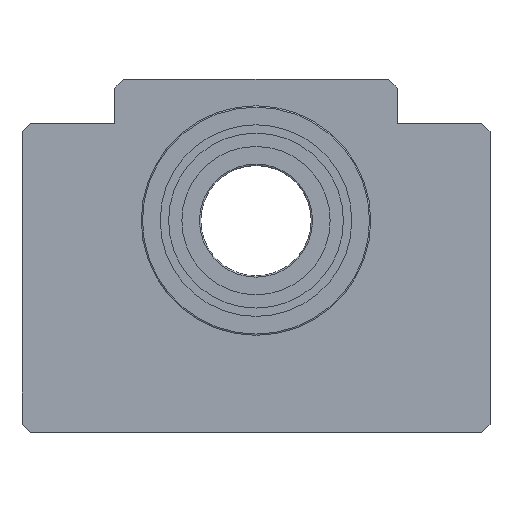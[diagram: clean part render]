
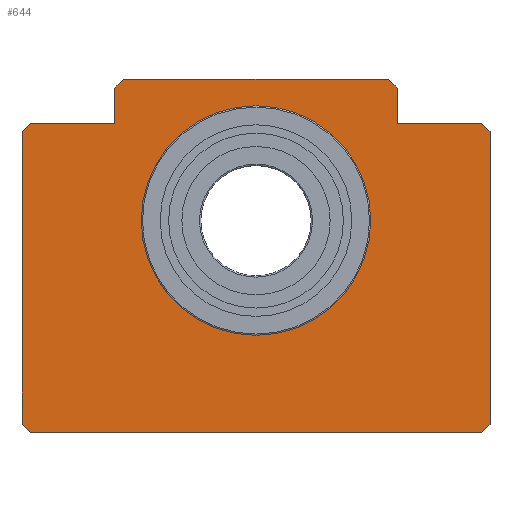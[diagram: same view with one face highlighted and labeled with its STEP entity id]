
A CAD part, top view. The second image highlights one B-rep face of the part: STEP entity #644.
In plain terms, the highlighted planar face has unit normal (0, 0, 1).
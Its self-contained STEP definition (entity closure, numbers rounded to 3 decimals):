
#54=CIRCLE('',#721,26.);
#160=ORIENTED_EDGE('',*,*,#282,.F.);
#161=ORIENTED_EDGE('',*,*,#231,.T.);
#162=ORIENTED_EDGE('',*,*,#235,.T.);
#163=ORIENTED_EDGE('',*,*,#240,.T.);
#164=ORIENTED_EDGE('',*,*,#243,.T.);
#165=ORIENTED_EDGE('',*,*,#246,.T.);
#166=ORIENTED_EDGE('',*,*,#252,.T.);
#167=ORIENTED_EDGE('',*,*,#257,.T.);
#168=ORIENTED_EDGE('',*,*,#258,.T.);
#169=ORIENTED_EDGE('',*,*,#261,.T.);
#170=ORIENTED_EDGE('',*,*,#264,.T.);
#171=ORIENTED_EDGE('',*,*,#267,.T.);
#172=ORIENTED_EDGE('',*,*,#270,.T.);
#173=ORIENTED_EDGE('',*,*,#276,.T.);
#174=ORIENTED_EDGE('',*,*,#280,.T.);
#231=EDGE_CURVE('',#307,#308,#367,.T.);
#235=EDGE_CURVE('',#308,#311,#371,.T.);
#240=EDGE_CURVE('',#311,#315,#374,.T.);
#243=EDGE_CURVE('',#315,#317,#377,.T.);
#246=EDGE_CURVE('',#317,#319,#380,.T.);
#252=EDGE_CURVE('',#319,#324,#385,.T.);
#257=EDGE_CURVE('',#324,#326,#389,.T.);
#258=EDGE_CURVE('',#326,#327,#390,.T.);
#261=EDGE_CURVE('',#327,#329,#393,.T.);
#264=EDGE_CURVE('',#329,#331,#396,.T.);
#267=EDGE_CURVE('',#331,#333,#399,.T.);
#270=EDGE_CURVE('',#333,#335,#402,.T.);
#276=EDGE_CURVE('',#335,#340,#407,.T.);
#280=EDGE_CURVE('',#340,#307,#410,.T.);
#282=EDGE_CURVE('',#342,#342,#54,.T.);
#307=VERTEX_POINT('',#978);
#308=VERTEX_POINT('',#979);
#311=VERTEX_POINT('',#987);
#315=VERTEX_POINT('',#997);
#317=VERTEX_POINT('',#1003);
#319=VERTEX_POINT('',#1009);
#324=VERTEX_POINT('',#1020);
#326=VERTEX_POINT('',#1028);
#327=VERTEX_POINT('',#1032);
#329=VERTEX_POINT('',#1038);
#331=VERTEX_POINT('',#1044);
#333=VERTEX_POINT('',#1050);
#335=VERTEX_POINT('',#1056);
#340=VERTEX_POINT('',#1067);
#342=VERTEX_POINT('',#1079);
#367=LINE('',#977,#411);
#371=LINE('',#986,#415);
#374=LINE('',#996,#418);
#377=LINE('',#1002,#421);
#380=LINE('',#1008,#424);
#385=LINE('',#1021,#429);
#389=LINE('',#1029,#433);
#390=LINE('',#1031,#434);
#393=LINE('',#1037,#437);
#396=LINE('',#1043,#440);
#399=LINE('',#1049,#443);
#402=LINE('',#1055,#446);
#407=LINE('',#1068,#451);
#410=LINE('',#1073,#454);
#411=VECTOR('',#779,1000.);
#415=VECTOR('',#785,1000.);
#418=VECTOR('',#794,1000.);
#421=VECTOR('',#799,1000.);
#424=VECTOR('',#804,1000.);
#429=VECTOR('',#813,1000.);
#433=VECTOR('',#821,1000.);
#434=VECTOR('',#824,1000.);
#437=VECTOR('',#829,1000.);
#440=VECTOR('',#834,1000.);
#443=VECTOR('',#839,1000.);
#446=VECTOR('',#844,1000.);
#451=VECTOR('',#853,1000.);
#454=VECTOR('',#860,1000.);
#473=EDGE_LOOP('',(#160));
#474=EDGE_LOOP('',(#161,#162,#163,#164,#165,#166,#167,#168,#169,#170,#171,
#172,#173,#174));
#547=FACE_BOUND('',#473,.T.);
#548=FACE_BOUND('',#474,.T.);
#618=PLANE('',#720);
#644=ADVANCED_FACE('',(#547,#548),#618,.T.);
#720=AXIS2_PLACEMENT_3D('',#1077,#865,#866);
#721=AXIS2_PLACEMENT_3D('',#1078,#867,#868);
#779=DIRECTION('',(0.,-1.,0.));
#785=DIRECTION('',(0.707,-0.707,0.));
#794=DIRECTION('',(1.,0.,0.));
#799=DIRECTION('',(0.707,0.707,0.));
#804=DIRECTION('',(0.,1.,0.));
#813=DIRECTION('',(-0.707,0.707,0.));
#821=DIRECTION('',(-1.,0.,0.));
#824=DIRECTION('',(0.,1.,0.));
#829=DIRECTION('',(-0.707,0.707,0.));
#834=DIRECTION('',(-1.,0.,0.));
#839=DIRECTION('',(-0.707,-0.707,0.));
#844=DIRECTION('',(0.,-1.,0.));
#853=DIRECTION('',(-1.,0.,0.));
#860=DIRECTION('',(-0.707,-0.707,0.));
#865=DIRECTION('',(0.,0.,1.));
#866=DIRECTION('',(1.,0.,0.));
#867=DIRECTION('',(0.,0.,1.));
#868=DIRECTION('',(1.,0.,0.));
#977=CARTESIAN_POINT('',(-53.,20.08,0.));
#978=CARTESIAN_POINT('',(-53.,20.08,0.));
#979=CARTESIAN_POINT('',(-53.,-46.08,0.));
#986=CARTESIAN_POINT('',(-53.,-46.08,0.));
#987=CARTESIAN_POINT('',(-51.08,-48.,0.));
#996=CARTESIAN_POINT('',(-51.08,-48.,0.));
#997=CARTESIAN_POINT('',(51.08,-48.,0.));
#1002=CARTESIAN_POINT('',(51.08,-48.,0.));
#1003=CARTESIAN_POINT('',(53.,-46.08,0.));
#1008=CARTESIAN_POINT('',(53.,-46.08,0.));
#1009=CARTESIAN_POINT('',(53.,20.08,0.));
#1020=CARTESIAN_POINT('',(51.08,22.,0.));
#1021=CARTESIAN_POINT('',(53.,20.08,0.));
#1028=CARTESIAN_POINT('',(32.,22.,0.));
#1029=CARTESIAN_POINT('',(51.08,22.,0.));
#1031=CARTESIAN_POINT('',(32.,22.,0.));
#1032=CARTESIAN_POINT('',(32.,30.,0.));
#1037=CARTESIAN_POINT('',(32.,30.,0.));
#1038=CARTESIAN_POINT('',(30.,32.,0.));
#1043=CARTESIAN_POINT('',(30.,32.,0.));
#1044=CARTESIAN_POINT('',(-30.,32.,0.));
#1049=CARTESIAN_POINT('',(-30.,32.,0.));
#1050=CARTESIAN_POINT('',(-32.,30.,0.));
#1055=CARTESIAN_POINT('',(-32.,30.,0.));
#1056=CARTESIAN_POINT('',(-32.,22.,0.));
#1067=CARTESIAN_POINT('',(-51.08,22.,0.));
#1068=CARTESIAN_POINT('',(-32.,22.,0.));
#1073=CARTESIAN_POINT('',(-51.08,22.,0.));
#1077=CARTESIAN_POINT('',(0.,0.,0.));
#1078=CARTESIAN_POINT('',(0.,0.,0.));
#1079=CARTESIAN_POINT('',(26.,0.,0.));
